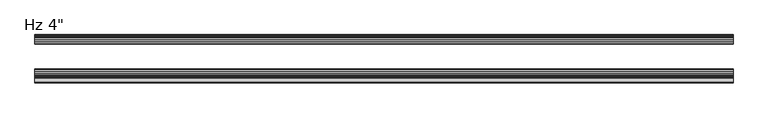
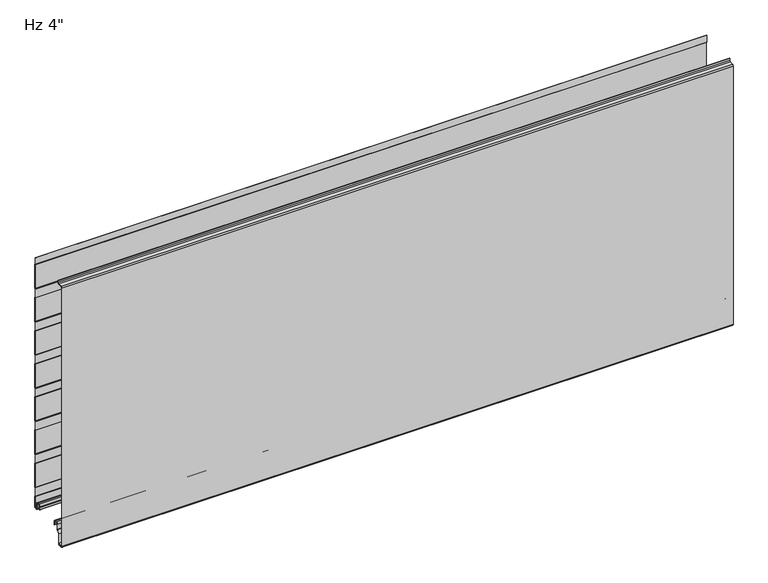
"""IFC4 building model written with IfcOpenShell, lengths in millimetres: plate geometry."""

from ifc_helpers import new_model, si_unit, point, frame, frame_2d, origin, place, context, project, spatial, polyline, circle_curve, trimmed, segment, composite_curve, outline, extrude, source, transform, mapped, element, save
from ifc_brep_helpers import plane_surface, cylinder_surface, revolved_surface, advanced_brep


def plate_ca38e474(model_context):
    return source(origin(), model_context, "Body", "SolidModel", [
        advanced_brep(
        [(-730.0, -17.0015368, 2.0313088), (-730.0, -18.00154, 1.0313116), (-730.0, -19.0015313, 2.0313088), (-730.0, -19.0015314, 6.0315125), (-730.0, -18.0015368, 6.0315125), (-730.0, -18.0015368, 8.7237223), (-730.0, -14.7015411, 12.023718), (-730.0, -10.3015499, 12.023718), (-730.0, -7.0015544, 8.7237225), (-730.0, -7.0015544, -1.6962564), (-730.0, -5.2315602, -3.4662506), (-730.0, -1.0000126, -3.4662506), (-730.0, -1.0000126, 21.034026), (-730.0, -2.2002516, 22.4196686), (-730.0, -2.2002516, 41.7948349), (-730.0, -1.0000209, 43.1804679), (-730.0, -1.0000209, 97.2338833), (-730.0, -2.2002516, 98.6195162), (-730.0, -2.2002516, 117.9946825), (-730.0, -1.0000209, 119.3803155), (-730.0, -1.0000209, 173.4337309), (-730.0, -2.2002516, 174.8193638), (-730.0, -2.2002516, 194.1945301), (-730.0, -1.0000209, 195.5801631), (-730.0, -1.0000209, 249.6335785), (-730.0, -2.2002516, 251.0192114), (-730.0, -2.2002516, 270.3943777), (-730.0, -1.0000209, 271.7800107), (-730.0, -1.0000209, 325.8334261), (-730.0, -2.2002516, 327.219059), (-730.0, -2.2002516, 346.5942253), (-730.0, -1.0000209, 347.9798583), (-730.0, -1.0000209, 402.0332737), (-730.0, -2.2002516, 403.4189066), (-730.0, -2.2002516, 422.7940729), (-730.0, -1.0000209, 424.1797059), (-730.0, -1.0000209, 478.2331213), (-730.0, -2.2002516, 479.6187542), (-730.0, -2.2002516, 498.9939205), (-730.0, -1.0000209, 500.3795535), (-730.0, -1.0000209, 554.4329689), (-730.0, -2.2002516, 555.8186018), (-730.0, -2.2002516, 571.2), (-730.0, -1.2002516, 571.2), (-730.0, -1.2002516, 556.1914823), (-730.0, -0.3418094, 555.2004346), (-730.0, -2.09e-05, 554.2838177), (-730.0, -2.09e-05, 500.5287046), (-730.0, -0.3418094, 499.6120877), (-730.0, -1.2002516, 498.6210401), (-730.0, -1.2002516, 479.9916347), (-730.0, -0.3418094, 479.000587), (-730.0, -2.09e-05, 478.0839701), (-730.0, -2.09e-05, 424.328857), (-730.0, -0.3418094, 423.4122401), (-730.0, -1.2002516, 422.4211925), (-730.0, -1.2002516, 403.7917871), (-730.0, -0.3418094, 402.8007394), (-730.0, -2.09e-05, 401.8841225), (-730.0, -2.09e-05, 348.1290094), (-730.0, -0.3418094, 347.2123925), (-730.0, -1.2002516, 346.2213449), (-730.0, -1.2002516, 327.5919395), (-730.0, -0.3418094, 326.6008918), (-730.0, -2.09e-05, 325.6842749), (-730.0, -2.09e-05, 271.9291618), (-730.0, -0.3418094, 271.0125449), (-730.0, -1.2002516, 270.0214973), (-730.0, -1.2002516, 251.3920919), (-730.0, -0.3418094, 250.4010442), (-730.0, -2.09e-05, 249.4844273), (-730.0, -2.09e-05, 195.7293142), (-730.0, -0.3418094, 194.8126973), (-730.0, -1.2002516, 193.8216497), (-730.0, -1.2002516, 175.1922443), (-730.0, -0.3418094, 174.2011966), (-730.0, -2.09e-05, 173.2845797), (-730.0, -2.09e-05, 119.5294666), (-730.0, -0.3418094, 118.6128497), (-730.0, -1.2002516, 117.6218021), (-730.0, -1.2002516, 98.9923967), (-730.0, -0.3418094, 98.001349), (-730.0, -2.09e-05, 97.0847321), (-730.0, -2.09e-05, 43.329619), (-730.0, -0.3418094, 42.4130021), (-730.0, -1.2002516, 41.4219545), (-730.0, -1.2002516, 22.7925491), (-730.0, -0.3418094, 21.8015014), (-730.0, -2.09e-05, 20.8847931), (-730.0, -1.26e-05, -3.0662545), (-730.0, -1.4000087, -4.4662506), (-730.0, -5.2315602, -4.4662506), (-730.0, -8.0015544, -1.6962564), (-730.0, -8.0015544, 8.7237225), (-730.0, -10.3015499, 11.023718), (-730.0, -14.7015411, 11.023718), (-730.0, -17.0015368, 8.7237223), (730.0, -17.0015368, 2.0313088), (730.0, -17.0015368, 8.7237223), (730.0, -14.7015411, 11.023718), (730.0, -10.3015499, 11.023718), (730.0, -8.0015544, 8.7237225), (730.0, -8.0015544, -1.6962564), (730.0, -5.2315602, -4.4662506), (730.0, -1.4000087, -4.4662506), (730.0, -1.26e-05, -3.0662545), (730.0, -1.26e-05, 20.8848845), (730.0, -0.3418094, 21.8015014), (730.0, -1.2002516, 22.7925491), (730.0, -1.2002516, 41.4219545), (730.0, -0.3418094, 42.4130021), (730.0, -2.09e-05, 43.329619), (730.0, -2.09e-05, 97.0847321), (730.0, -0.3418094, 98.001349), (730.0, -1.2002516, 98.9923967), (730.0, -1.2002516, 117.6218021), (730.0, -0.3418094, 118.6128497), (730.0, -2.09e-05, 119.5294666), (730.0, -2.09e-05, 173.2845797), (730.0, -0.3418094, 174.2011966), (730.0, -1.2002516, 175.1922443), (730.0, -1.2002516, 193.8216497), (730.0, -0.3418094, 194.8126973), (730.0, -2.09e-05, 195.7293142), (730.0, -2.09e-05, 249.4844273), (730.0, -0.3418094, 250.4010442), (730.0, -1.2002516, 251.3920919), (730.0, -1.2002516, 270.0214973), (730.0, -0.3418094, 271.0125449), (730.0, -2.09e-05, 271.9291618), (730.0, -2.09e-05, 325.6842749), (730.0, -0.3418094, 326.6008918), (730.0, -1.2002516, 327.5919395), (730.0, -1.2002516, 346.2213449), (730.0, -0.3418094, 347.2123925), (730.0, -2.09e-05, 348.1290094), (730.0, -2.09e-05, 401.8841225), (730.0, -0.3418094, 402.8007394), (730.0, -1.2002516, 403.7917871), (730.0, -1.2002516, 422.4211925), (730.0, -0.3418094, 423.4122401), (730.0, -2.09e-05, 424.328857), (730.0, -2.09e-05, 478.0839701), (730.0, -0.3418094, 479.000587), (730.0, -1.2002516, 479.9916347), (730.0, -1.2002516, 498.6210401), (730.0, -0.3418094, 499.6120877), (730.0, -2.09e-05, 500.5287046), (730.0, -2.09e-05, 554.2838177), (730.0, -0.3418094, 555.2004346), (730.0, -1.2002516, 556.1914823), (730.0, -1.2002516, 571.2), (730.0, -2.2002516, 571.2), (730.0, -2.2002516, 555.8186018), (730.0, -1.0000209, 554.4329689), (730.0, -1.0000209, 500.3795535), (730.0, -2.2002516, 498.9939205), (730.0, -2.2002516, 479.6187542), (730.0, -1.0000209, 478.2331213), (730.0, -1.0000209, 424.1797059), (730.0, -2.2002516, 422.7940729), (730.0, -2.2002516, 403.4189066), (730.0, -1.0000209, 402.0332737), (730.0, -1.0000209, 347.9798583), (730.0, -2.2002516, 346.5942253), (730.0, -2.2002516, 327.219059), (730.0, -1.0000209, 325.8334261), (730.0, -1.0000209, 271.7800107), (730.0, -2.2002516, 270.3943777), (730.0, -2.2002516, 251.0192114), (730.0, -1.0000209, 249.6335785), (730.0, -1.0000209, 195.5801631), (730.0, -2.2002516, 194.1945301), (730.0, -2.2002516, 174.8193638), (730.0, -1.0000209, 173.4337309), (730.0, -1.0000209, 119.3803155), (730.0, -2.2002516, 117.9946825), (730.0, -2.2002516, 98.6195162), (730.0, -1.0000209, 97.2338833), (730.0, -1.0000209, 43.1804679), (730.0, -2.2002516, 41.7948349), (730.0, -2.2002516, 22.4196686), (730.0, -1.0000126, 21.034026), (730.0, -1.0000126, -3.4662506), (730.0, -5.2315602, -3.4662506), (730.0, -7.0015544, -1.6962564), (730.0, -7.0015544, 8.7237225), (730.0, -10.3015499, 12.023718), (730.0, -14.7015411, 12.023718), (730.0, -18.0015368, 8.7237223), (730.0, -18.0015368, 6.0315125), (730.0, -19.0015314, 6.0315125), (730.0, -19.0015314, 2.0313088), (730.0, -18.00154, 1.0313116)],
        [
            (0, 1, circle_curve(frame((-730.0, -18.0015341, 2.0313088), z_axis=(-1.0, 0.0, 0.0), x_axis=(0.0, 0.0, 1.0)), 0.9999973)),
            (1, 2, circle_curve(frame((-730.0, -18.0015341, 2.0313088), z_axis=(-1.0, 0.0, 0.0), x_axis=(0.0, 0.0, 1.0)), 0.9999972)),
            (2, 3),
            (3, 4),
            (4, 5),
            (5, 6, circle_curve(frame((-730.0, -14.7015411, 8.7237223), z_axis=(-1.0, 0.0, 0.0), x_axis=(0.0, 0.0, 1.0)), 3.2999957)),
            (6, 7),
            (7, 8, circle_curve(frame((-730.0, -10.3015499, 8.7237225), z_axis=(-1.0, 0.0, 0.0), x_axis=(0.0, 0.0, 1.0)), 3.2999955)),
            (8, 9),
            (9, 10, circle_curve(frame((-730.0, -5.2315602, -1.6962564), z_axis=(1.0, 0.0, 0.0), x_axis=(0.0, 0.0, 1.0)), 1.7699942)),
            (10, 11),
            (11, 12),
            (12, 13),
            (13, 14),
            (14, 15),
            (15, 16),
            (16, 17),
            (17, 18),
            (18, 19),
            (19, 20),
            (20, 21),
            (21, 22),
            (22, 23),
            (23, 24),
            (24, 25),
            (25, 26),
            (26, 27),
            (27, 28),
            (28, 29),
            (29, 30),
            (30, 31),
            (31, 32),
            (32, 33),
            (33, 34),
            (34, 35),
            (35, 36),
            (36, 37),
            (37, 38),
            (38, 39),
            (39, 40),
            (40, 41),
            (41, 42),
            (42, 43),
            (43, 44),
            (44, 45),
            (45, 46, circle_curve(frame((-730.0, -1.4000181, 554.2838177), z_axis=(-1.0, 0.0, 0.0), x_axis=(0.0, 0.0, 1.0)), 1.3999972)),
            (46, 47),
            (47, 48, circle_curve(frame((-730.0, -1.4000181, 500.5287046), z_axis=(-1.0, 0.0, 0.0), x_axis=(0.0, 0.0, 1.0)), 1.3999972)),
            (48, 49),
            (49, 50),
            (50, 51),
            (51, 52, circle_curve(frame((-730.0, -1.4000181, 478.0839701), z_axis=(-1.0, 0.0, 0.0), x_axis=(0.0, 0.0, 1.0)), 1.3999972)),
            (52, 53),
            (53, 54, circle_curve(frame((-730.0, -1.4000181, 424.328857), z_axis=(-1.0, 0.0, 0.0), x_axis=(0.0, 0.0, 1.0)), 1.3999972)),
            (54, 55),
            (55, 56),
            (56, 57),
            (57, 58, circle_curve(frame((-730.0, -1.4000181, 401.8841225), z_axis=(-1.0, 0.0, 0.0), x_axis=(0.0, 0.0, 1.0)), 1.3999972)),
            (58, 59),
            (59, 60, circle_curve(frame((-730.0, -1.4000181, 348.1290094), z_axis=(-1.0, 0.0, 0.0), x_axis=(0.0, 0.0, 1.0)), 1.3999972)),
            (60, 61),
            (61, 62),
            (62, 63),
            (63, 64, circle_curve(frame((-730.0, -1.4000181, 325.6842749), z_axis=(-1.0, 0.0, 0.0), x_axis=(0.0, 0.0, 1.0)), 1.3999972)),
            (64, 65),
            (65, 66, circle_curve(frame((-730.0, -1.4000181, 271.9291618), z_axis=(-1.0, 0.0, 0.0), x_axis=(0.0, 0.0, 1.0)), 1.3999972)),
            (66, 67),
            (67, 68),
            (68, 69),
            (69, 70, circle_curve(frame((-730.0, -1.4000181, 249.4844273), z_axis=(-1.0, 0.0, 0.0), x_axis=(0.0, 0.0, 1.0)), 1.3999972)),
            (70, 71),
            (71, 72, circle_curve(frame((-730.0, -1.4000181, 195.7293142), z_axis=(-1.0, 0.0, 0.0), x_axis=(0.0, 0.0, 1.0)), 1.3999972)),
            (72, 73),
            (73, 74),
            (74, 75),
            (75, 76, circle_curve(frame((-730.0, -1.4000181, 173.2845797), z_axis=(-1.0, 0.0, 0.0), x_axis=(0.0, 0.0, 1.0)), 1.3999972)),
            (76, 77),
            (77, 78, circle_curve(frame((-730.0, -1.4000181, 119.5294666), z_axis=(-1.0, 0.0, 0.0), x_axis=(0.0, 0.0, 1.0)), 1.3999972)),
            (78, 79),
            (79, 80),
            (80, 81),
            (81, 82, circle_curve(frame((-730.0, -1.4000181, 97.0847321), z_axis=(-1.0, 0.0, 0.0), x_axis=(0.0, 0.0, 1.0)), 1.3999972)),
            (82, 83),
            (83, 84, circle_curve(frame((-730.0, -1.4000181, 43.329619), z_axis=(-1.0, 0.0, 0.0), x_axis=(0.0, 0.0, 1.0)), 1.3999972)),
            (84, 85),
            (85, 86),
            (86, 87),
            (87, 88, circle_curve(frame((-730.0, -1.4000181, 20.8848845), z_axis=(-1.0, 0.0, 0.0), x_axis=(0.0, 0.0, 1.0)), 1.3999972)),
            (88, 89),
            (89, 90, circle_curve(frame((-730.0, -1.4000087, -3.0662545), z_axis=(-1.0, 0.0, 0.0), x_axis=(0.0, 0.0, 1.0)), 1.3999962)),
            (90, 91),
            (91, 92, circle_curve(frame((-730.0, -5.2315602, -1.6962564), z_axis=(-1.0, 0.0, 0.0), x_axis=(0.0, 0.0, 1.0)), 2.7699942)),
            (92, 93),
            (93, 94, circle_curve(frame((-730.0, -10.3015499, 8.7237225), z_axis=(1.0, 0.0, 0.0), x_axis=(0.0, 0.0, 1.0)), 2.2999955)),
            (94, 95),
            (95, 96, circle_curve(frame((-730.0, -14.7015411, 8.7237223), z_axis=(1.0, 0.0, 0.0), x_axis=(0.0, 0.0, 1.0)), 2.2999957)),
            (96, 0),
            (97, 98),
            (98, 99, circle_curve(frame((730.0, -14.7015411, 8.7237223), z_axis=(-1.0, 0.0, 0.0), x_axis=(0.0, 0.0, 1.0)), 2.2999957)),
            (99, 100),
            (100, 101, circle_curve(frame((730.0, -10.3015499, 8.7237225), z_axis=(-1.0, 0.0, 0.0), x_axis=(0.0, 0.0, 1.0)), 2.2999955)),
            (101, 102),
            (102, 103, circle_curve(frame((730.0, -5.2315602, -1.6962564), z_axis=(1.0, 0.0, 0.0), x_axis=(0.0, 0.0, 1.0)), 2.7699942)),
            (103, 104),
            (104, 105, circle_curve(frame((730.0, -1.4000087, -3.0662545), z_axis=(1.0, 0.0, 0.0), x_axis=(0.0, 0.0, 1.0)), 1.3999962)),
            (105, 106),
            (106, 107, circle_curve(frame((730.0, -1.4000181, 20.8848845), z_axis=(1.0, 0.0, 0.0), x_axis=(0.0, 0.0, 1.0)), 1.3999972)),
            (107, 108),
            (108, 109),
            (109, 110),
            (110, 111, circle_curve(frame((730.0, -1.4000181, 43.329619), z_axis=(1.0, 0.0, 0.0), x_axis=(0.0, 0.0, 1.0)), 1.3999972)),
            (111, 112),
            (112, 113, circle_curve(frame((730.0, -1.4000181, 97.0847321), z_axis=(1.0, 0.0, 0.0), x_axis=(0.0, 0.0, 1.0)), 1.3999972)),
            (113, 114),
            (114, 115),
            (115, 116),
            (116, 117, circle_curve(frame((730.0, -1.4000181, 119.5294666), z_axis=(1.0, 0.0, 0.0), x_axis=(0.0, 0.0, 1.0)), 1.3999972)),
            (117, 118),
            (118, 119, circle_curve(frame((730.0, -1.4000181, 173.2845797), z_axis=(1.0, 0.0, 0.0), x_axis=(0.0, 0.0, 1.0)), 1.3999972)),
            (119, 120),
            (120, 121),
            (121, 122),
            (122, 123, circle_curve(frame((730.0, -1.4000181, 195.7293142), z_axis=(1.0, 0.0, 0.0), x_axis=(0.0, 0.0, 1.0)), 1.3999972)),
            (123, 124),
            (124, 125, circle_curve(frame((730.0, -1.4000181, 249.4844273), z_axis=(1.0, 0.0, 0.0), x_axis=(0.0, 0.0, 1.0)), 1.3999972)),
            (125, 126),
            (126, 127),
            (127, 128),
            (128, 129, circle_curve(frame((730.0, -1.4000181, 271.9291618), z_axis=(1.0, 0.0, 0.0), x_axis=(0.0, 0.0, 1.0)), 1.3999972)),
            (129, 130),
            (130, 131, circle_curve(frame((730.0, -1.4000181, 325.6842749), z_axis=(1.0, 0.0, 0.0), x_axis=(0.0, 0.0, 1.0)), 1.3999972)),
            (131, 132),
            (132, 133),
            (133, 134),
            (134, 135, circle_curve(frame((730.0, -1.4000181, 348.1290094), z_axis=(1.0, 0.0, 0.0), x_axis=(0.0, 0.0, 1.0)), 1.3999972)),
            (135, 136),
            (136, 137, circle_curve(frame((730.0, -1.4000181, 401.8841225), z_axis=(1.0, 0.0, 0.0), x_axis=(0.0, 0.0, 1.0)), 1.3999972)),
            (137, 138),
            (138, 139),
            (139, 140),
            (140, 141, circle_curve(frame((730.0, -1.4000181, 424.328857), z_axis=(1.0, 0.0, 0.0), x_axis=(0.0, 0.0, 1.0)), 1.3999972)),
            (141, 142),
            (142, 143, circle_curve(frame((730.0, -1.4000181, 478.0839701), z_axis=(1.0, 0.0, 0.0), x_axis=(0.0, 0.0, 1.0)), 1.3999972)),
            (143, 144),
            (144, 145),
            (145, 146),
            (146, 147, circle_curve(frame((730.0, -1.4000181, 500.5287046), z_axis=(1.0, 0.0, 0.0), x_axis=(0.0, 0.0, 1.0)), 1.3999972)),
            (147, 148),
            (148, 149, circle_curve(frame((730.0, -1.4000181, 554.2838177), z_axis=(1.0, 0.0, 0.0), x_axis=(0.0, 0.0, 1.0)), 1.3999972)),
            (149, 150),
            (150, 151),
            (151, 152),
            (152, 153),
            (153, 154),
            (154, 155),
            (155, 156),
            (156, 157),
            (157, 158),
            (158, 159),
            (159, 160),
            (160, 161),
            (161, 162),
            (162, 163),
            (163, 164),
            (164, 165),
            (165, 166),
            (166, 167),
            (167, 168),
            (168, 169),
            (169, 170),
            (170, 171),
            (171, 172),
            (172, 173),
            (173, 174),
            (174, 175),
            (175, 176),
            (176, 177),
            (177, 178),
            (178, 179),
            (179, 180),
            (180, 181),
            (181, 182),
            (182, 183),
            (183, 184),
            (184, 185, circle_curve(frame((730.0, -5.2315602, -1.6962564), z_axis=(-1.0, 0.0, 0.0), x_axis=(0.0, 0.0, 1.0)), 1.7699942)),
            (185, 186),
            (186, 187, circle_curve(frame((730.0, -10.3015499, 8.7237225), z_axis=(1.0, 0.0, 0.0), x_axis=(0.0, 0.0, 1.0)), 3.2999955)),
            (187, 188),
            (188, 189, circle_curve(frame((730.0, -14.7015411, 8.7237223), z_axis=(1.0, 0.0, 0.0), x_axis=(0.0, 0.0, 1.0)), 3.2999957)),
            (189, 190),
            (190, 191),
            (191, 192),
            (192, 193, circle_curve(frame((730.0, -18.0015341, 2.0313088), z_axis=(1.0, 0.0, 0.0), x_axis=(0.0, 0.0, 1.0)), 0.9999972)),
            (193, 97, circle_curve(frame((730.0, -18.0015341, 2.0313088), z_axis=(1.0, 0.0, 0.0), x_axis=(0.0, 0.0, 1.0)), 0.9999973)),
            (96, 98),
            (97, 0),
            (95, 99),
            (94, 100),
            (93, 101),
            (92, 102),
            (91, 103),
            (90, 104),
            (89, 105),
            (88, 106),
            (70, 124),
            (123, 71),
            (87, 107),
            (86, 108),
            (85, 109),
            (83, 111),
            (110, 84),
            (81, 113),
            (112, 82),
            (66, 128),
            (127, 67),
            (122, 72),
            (121, 73),
            (76, 118),
            (117, 77),
            (69, 125),
            (68, 126),
            (65, 129),
            (116, 78),
            (79, 115),
            (114, 80),
            (75, 119),
            (74, 120),
            (2, 192),
            (191, 3),
            (1, 193),
            (64, 130),
            (63, 131),
            (62, 132),
            (61, 133),
            (60, 134),
            (59, 135),
            (58, 136),
            (31, 163),
            (162, 32),
            (30, 164),
            (29, 165),
            (28, 166),
            (27, 167),
            (26, 168),
            (25, 169),
            (24, 170),
            (23, 171),
            (22, 172),
            (21, 173),
            (20, 174),
            (19, 175),
            (18, 176),
            (17, 177),
            (16, 178),
            (15, 179),
            (14, 180),
            (13, 181),
            (12, 182),
            (11, 183),
            (10, 184),
            (9, 185),
            (8, 186),
            (7, 187),
            (6, 188),
            (5, 189),
            (4, 190),
            (42, 152),
            (151, 43),
            (57, 137),
            (56, 138),
            (55, 139),
            (54, 140),
            (53, 141),
            (52, 142),
            (51, 143),
            (50, 144),
            (49, 145),
            (48, 146),
            (47, 147),
            (46, 148),
            (45, 149),
            (44, 150),
            (41, 153),
            (40, 154),
            (39, 155),
            (38, 156),
            (37, 157),
            (36, 158),
            (35, 159),
            (34, 160),
            (33, 161),
        ],
        [
            plane_surface(frame((-730.0, -2.09e-05, 304.8), z_axis=(-1.0, 0.0, 0.0), x_axis=(0.0, 1.0, 0.0))),
            plane_surface(frame((730.0, -2.09e-05, 304.8), z_axis=(1.0, 0.0, 0.0), x_axis=(0.0, 1.0, 0.0))),
            plane_surface(frame((-730.0, -17.0015368, 2.0313088), z_axis=(0.0, 1.0, 0.0), x_axis=(1.0, 0.0, 0.0))),
            revolved_surface(polyline([(730.0, -14.7015411, 11.023718), (-730.0, -14.7015411, 11.023718)]), (-730.0, -14.7015411, 8.7237223), (1.0, 0.0, 0.0)),
            plane_surface(frame((-730.0, -14.7015411, 11.023718), z_axis=(0.0, 0.0, -1.0), x_axis=(1.0, 0.0, 0.0))),
            revolved_surface(polyline([(730.0, -10.3015499, 11.023717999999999), (-730.0, -10.3015499, 11.023717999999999)]), (-730.0, -10.3015499, 8.7237225), (1.0, 0.0, 0.0)),
            plane_surface(frame((-730.0, -8.0015544, 8.7237225), z_axis=(0.0, -1.0, 0.0), x_axis=(1.0, 0.0, 0.0))),
            cylinder_surface(frame((-730.0, -5.2315602, -1.6962564), z_axis=(-1.0, 0.0, 0.0), x_axis=(0.0, 0.0, 1.0)), 2.7699942),
            plane_surface(frame((-730.0, -5.2315602, -4.4662506), z_axis=(0.0, 0.0, -1.0), x_axis=(1.0, 0.0, 0.0))),
            cylinder_surface(frame((-730.0, -1.4000087, -3.0662545), z_axis=(-1.0, 0.0, 0.0), x_axis=(0.0, 0.0, 1.0)), 1.3999962),
            plane_surface(frame((-730.0, -1.26e-05, -3.0662545), z_axis=(0.0, 1.0, 0.0), x_axis=(1.0, 0.0, 0.0))),
            plane_surface(frame((-730.0, -2.09e-05, 195.7293142), z_axis=(0.0, 1.0, 0.0), x_axis=(1.0, 0.0, 0.0))),
            cylinder_surface(frame((-730.0, -1.4000181, 20.8848845), z_axis=(-1.0, 0.0, 0.0), x_axis=(0.0, 0.0, 1.0)), 1.3999972),
            plane_surface(frame((-730.0, -0.3418094, 21.8015014), z_axis=(0.0, 0.755864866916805, 0.6547276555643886), x_axis=(1.0, 0.0, 0.0))),
            plane_surface(frame((-730.0, -1.2002516, 32.1072518), z_axis=(0.0, 1.0, 0.0), x_axis=(1.0, 0.0, 0.0))),
            cylinder_surface(frame((-730.0, -1.4000181, 43.329619), z_axis=(-1.0, 0.0, 0.0), x_axis=(0.0, 0.0, 1.0)), 1.3999972),
            plane_surface(frame((-730.0, -1.2002516, 41.4219545), z_axis=(0.0, 0.755864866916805, -0.6547276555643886), x_axis=(1.0, 0.0, 0.0))),
            cylinder_surface(frame((-730.0, -1.4000181, 97.0847321), z_axis=(-1.0, 0.0, 0.0), x_axis=(0.0, 0.0, 1.0)), 1.3999972),
            plane_surface(frame((-730.0, -1.2002516, 270.0214973), z_axis=(0.0, 0.755864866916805, -0.6547276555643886), x_axis=(1.0, 0.0, 0.0))),
            cylinder_surface(frame((-730.0, -1.4000181, 195.7293142), z_axis=(-1.0, 0.0, 0.0), x_axis=(0.0, 0.0, 1.0)), 1.3999972),
            plane_surface(frame((-730.0, -1.2002516, 193.8216497), z_axis=(0.0, 0.755864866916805, -0.6547276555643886), x_axis=(1.0, 0.0, 0.0))),
            plane_surface(frame((-730.0, -2.09e-05, 119.5294666), z_axis=(0.0, 1.0, 0.0), x_axis=(1.0, 0.0, 0.0))),
            cylinder_surface(frame((-730.0, -1.4000181, 249.4844273), z_axis=(-1.0, 0.0, 0.0), x_axis=(0.0, 0.0, 1.0)), 1.3999972),
            plane_surface(frame((-730.0, -0.3418094, 250.4010442), z_axis=(0.0, 0.755864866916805, 0.6547276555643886), x_axis=(1.0, 0.0, 0.0))),
            plane_surface(frame((-730.0, -1.2002516, 260.7067946), z_axis=(0.0, 1.0, 0.0), x_axis=(1.0, 0.0, 0.0))),
            cylinder_surface(frame((-730.0, -1.4000181, 271.9291618), z_axis=(-1.0, 0.0, 0.0), x_axis=(0.0, 0.0, 1.0)), 1.3999972),
            cylinder_surface(frame((-730.0, -1.4000181, 119.5294666), z_axis=(-1.0, 0.0, 0.0), x_axis=(0.0, 0.0, 1.0)), 1.3999972),
            plane_surface(frame((-730.0, -1.2002516, 108.3070994), z_axis=(0.0, 1.0, 0.0), x_axis=(1.0, 0.0, 0.0))),
            plane_surface(frame((-730.0, -0.3418094, 98.001349), z_axis=(0.0, 0.755864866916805, 0.6547276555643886), x_axis=(1.0, 0.0, 0.0))),
            plane_surface(frame((-730.0, -1.2002516, 117.6218021), z_axis=(0.0, 0.755864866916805, -0.6547276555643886), x_axis=(1.0, 0.0, 0.0))),
            plane_surface(frame((-730.0, -2.09e-05, 43.329619), z_axis=(0.0, 1.0, 0.0), x_axis=(1.0, 0.0, 0.0))),
            cylinder_surface(frame((-730.0, -1.4000181, 173.2845797), z_axis=(-1.0, 0.0, 0.0), x_axis=(0.0, 0.0, 1.0)), 1.3999972),
            plane_surface(frame((-730.0, -0.3418094, 174.2011966), z_axis=(0.0, 0.755864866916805, 0.6547276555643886), x_axis=(1.0, 0.0, 0.0))),
            plane_surface(frame((-730.0, -1.2002516, 184.506947), z_axis=(0.0, 1.0, 0.0), x_axis=(1.0, 0.0, 0.0))),
            plane_surface(frame((-730.0, -19.0015314, 6.0315125), z_axis=(0.0, -1.0, 0.0), x_axis=(1.0, 0.0, 0.0))),
            cylinder_surface(frame((-730.0, -18.0015341, 2.0313088), z_axis=(-1.0, 0.0, 0.0), x_axis=(0.0, 0.0, 1.0)), 0.9999972),
            cylinder_surface(frame((-730.0, -18.0015341, 2.0313088), z_axis=(-1.0, 0.0, 0.0), x_axis=(0.0, 0.0, 1.0)), 0.9999973),
            plane_surface(frame((-730.0, -2.09e-05, 271.9291618), z_axis=(0.0, 1.0, 0.0), x_axis=(1.0, 0.0, 0.0))),
            cylinder_surface(frame((-730.0, -1.4000181, 325.6842749), z_axis=(-1.0, 0.0, 0.0), x_axis=(0.0, 0.0, 1.0)), 1.3999972),
            plane_surface(frame((-730.0, -0.3418094, 326.6008918), z_axis=(0.0, 0.755864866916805, 0.6547276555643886), x_axis=(1.0, 0.0, 0.0))),
            plane_surface(frame((-730.0, -1.2002516, 336.9066422), z_axis=(0.0, 1.0, 0.0), x_axis=(1.0, 0.0, 0.0))),
            plane_surface(frame((-730.0, -1.2002516, 346.2213449), z_axis=(0.0, 0.755864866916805, -0.6547276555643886), x_axis=(1.0, 0.0, 0.0))),
            cylinder_surface(frame((-730.0, -1.4000181, 348.1290094), z_axis=(-1.0, 0.0, 0.0), x_axis=(0.0, 0.0, 1.0)), 1.3999972),
            plane_surface(frame((-730.0, -2.09e-05, 348.1290094), z_axis=(0.0, 1.0, 0.0), x_axis=(1.0, 0.0, 0.0))),
            plane_surface(frame((-730.0, -1.0000209, 402.0332737), z_axis=(0.0, -1.0, 0.0), x_axis=(1.0, 0.0, 0.0))),
            plane_surface(frame((-730.0, -1.0000209, 347.9798583), z_axis=(0.0, -0.755864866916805, 0.6547276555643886), x_axis=(1.0, 0.0, 0.0))),
            plane_surface(frame((-730.0, -2.2002516, 346.5942253), z_axis=(0.0, -1.0, 0.0), x_axis=(1.0, 0.0, 0.0))),
            plane_surface(frame((-730.0, -2.2002516, 327.219059), z_axis=(0.0, -0.755864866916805, -0.6547276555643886), x_axis=(1.0, 0.0, 0.0))),
            plane_surface(frame((-730.0, -1.0000209, 325.8334261), z_axis=(0.0, -1.0, 0.0), x_axis=(1.0, 0.0, 0.0))),
            plane_surface(frame((-730.0, -1.0000209, 271.7800107), z_axis=(0.0, -0.755864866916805, 0.6547276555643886), x_axis=(1.0, 0.0, 0.0))),
            plane_surface(frame((-730.0, -2.2002516, 270.3943777), z_axis=(0.0, -1.0, 0.0), x_axis=(1.0, 0.0, 0.0))),
            plane_surface(frame((-730.0, -2.2002516, 251.0192114), z_axis=(0.0, -0.755864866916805, -0.6547276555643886), x_axis=(1.0, 0.0, 0.0))),
            plane_surface(frame((-730.0, -1.0000209, 249.6335785), z_axis=(0.0, -1.0, 0.0), x_axis=(1.0, 0.0, 0.0))),
            plane_surface(frame((-730.0, -1.0000209, 195.5801631), z_axis=(0.0, -0.755864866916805, 0.6547276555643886), x_axis=(1.0, 0.0, 0.0))),
            plane_surface(frame((-730.0, -2.2002516, 194.1945301), z_axis=(0.0, -1.0, 0.0), x_axis=(1.0, 0.0, 0.0))),
            plane_surface(frame((-730.0, -2.2002516, 174.8193638), z_axis=(0.0, -0.755864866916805, -0.6547276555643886), x_axis=(1.0, 0.0, 0.0))),
            plane_surface(frame((-730.0, -1.0000209, 173.4337309), z_axis=(0.0, -1.0, 0.0), x_axis=(1.0, 0.0, 0.0))),
            plane_surface(frame((-730.0, -1.0000209, 119.3803155), z_axis=(0.0, -0.755864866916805, 0.6547276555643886), x_axis=(1.0, 0.0, 0.0))),
            plane_surface(frame((-730.0, -2.2002516, 117.9946825), z_axis=(0.0, -1.0, 0.0), x_axis=(1.0, 0.0, 0.0))),
            plane_surface(frame((-730.0, -2.2002516, 98.6195162), z_axis=(0.0, -0.755864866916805, -0.6547276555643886), x_axis=(1.0, 0.0, 0.0))),
            plane_surface(frame((-730.0, -1.0000209, 97.2338833), z_axis=(0.0, -1.0, 0.0), x_axis=(1.0, 0.0, 0.0))),
            plane_surface(frame((-730.0, -1.0000209, 43.1804679), z_axis=(0.0, -0.755864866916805, 0.6547276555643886), x_axis=(1.0, 0.0, 0.0))),
            plane_surface(frame((-730.0, -2.2002516, 41.7948349), z_axis=(0.0, -1.0, 0.0), x_axis=(1.0, 0.0, 0.0))),
            plane_surface(frame((-730.0, -2.2002516, 22.4196686), z_axis=(0.0, -0.755864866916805, -0.6547276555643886), x_axis=(1.0, 0.0, 0.0))),
            plane_surface(frame((-730.0, -1.0000126, 21.034026), z_axis=(0.0, -1.0, 0.0), x_axis=(1.0, 0.0, 0.0))),
            plane_surface(frame((-730.0, -1.0000126, -3.4662506), z_axis=(0.0, 0.0, 1.0), x_axis=(1.0, 0.0, 0.0))),
            revolved_surface(polyline([(730.0, -5.2315602, 0.07373779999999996), (-730.0, -5.2315602, 0.07373779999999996)]), (-730.0, -5.2315602, -1.6962564), (1.0, 0.0, 0.0)),
            plane_surface(frame((-730.0, -7.0015544, -1.6962564), z_axis=(0.0, 1.0, 0.0), x_axis=(1.0, 0.0, 0.0))),
            cylinder_surface(frame((-730.0, -10.3015499, 8.7237225), z_axis=(-1.0, 0.0, 0.0), x_axis=(0.0, 0.0, 1.0)), 3.2999955),
            plane_surface(frame((-730.0, -10.3015499, 12.023718), z_axis=(0.0, 0.0, 1.0), x_axis=(1.0, 0.0, 0.0))),
            cylinder_surface(frame((-730.0, -14.7015411, 8.7237223), z_axis=(-1.0, 0.0, 0.0), x_axis=(0.0, 0.0, 1.0)), 3.2999957),
            plane_surface(frame((-730.0, -18.0015368, 8.7237223), z_axis=(0.0, -1.0, 0.0), x_axis=(1.0, 0.0, 0.0))),
            plane_surface(frame((-730.0, -18.0015368, 6.0315125), z_axis=(0.0, 0.0, 1.0), x_axis=(1.0, 0.0, 0.0))),
            plane_surface(frame((730.0, 9.9999791, 571.2), z_axis=(0.0, 0.0, 1.0), x_axis=(-1.0, 0.0, 0.0))),
            cylinder_surface(frame((-730.0, -1.4000181, 401.8841225), z_axis=(-1.0, 0.0, 0.0), x_axis=(0.0, 0.0, 1.0)), 1.3999972),
            plane_surface(frame((-730.0, -0.3418094, 402.8007394), z_axis=(0.0, 0.755864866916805, 0.6547276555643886), x_axis=(1.0, 0.0, 0.0))),
            plane_surface(frame((-730.0, -1.2002516, 413.1064898), z_axis=(0.0, 1.0, 0.0), x_axis=(1.0, 0.0, 0.0))),
            plane_surface(frame((-730.0, -1.2002516, 422.4211925), z_axis=(0.0, 0.755864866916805, -0.6547276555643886), x_axis=(1.0, 0.0, 0.0))),
            cylinder_surface(frame((-730.0, -1.4000181, 424.328857), z_axis=(-1.0, 0.0, 0.0), x_axis=(0.0, 0.0, 1.0)), 1.3999972),
            plane_surface(frame((-730.0, -2.09e-05, 424.328857), z_axis=(0.0, 1.0, 0.0), x_axis=(1.0, 0.0, 0.0))),
            cylinder_surface(frame((-730.0, -1.4000181, 478.0839701), z_axis=(-1.0, 0.0, 0.0), x_axis=(0.0, 0.0, 1.0)), 1.3999972),
            plane_surface(frame((-730.0, -0.3418094, 479.000587), z_axis=(0.0, 0.755864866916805, 0.6547276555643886), x_axis=(1.0, 0.0, 0.0))),
            plane_surface(frame((-730.0, -1.2002516, 489.3063374), z_axis=(0.0, 1.0, 0.0), x_axis=(1.0, 0.0, 0.0))),
            plane_surface(frame((-730.0, -1.2002516, 498.6210401), z_axis=(0.0, 0.755864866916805, -0.6547276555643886), x_axis=(1.0, 0.0, 0.0))),
            cylinder_surface(frame((-730.0, -1.4000181, 500.5287046), z_axis=(-1.0, 0.0, 0.0), x_axis=(0.0, 0.0, 1.0)), 1.3999972),
            plane_surface(frame((-730.0, -2.09e-05, 500.5287046), z_axis=(0.0, 1.0, 0.0), x_axis=(1.0, 0.0, 0.0))),
            cylinder_surface(frame((-730.0, -1.4000181, 554.2838177), z_axis=(-1.0, 0.0, 0.0), x_axis=(0.0, 0.0, 1.0)), 1.3999972),
            plane_surface(frame((-730.0, -0.3418094, 555.2004346), z_axis=(0.0, 0.755864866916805, 0.6547276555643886), x_axis=(1.0, 0.0, 0.0))),
            plane_surface(frame((-730.0, -1.2002516, 565.506185), z_axis=(0.0, 1.0, 0.0), x_axis=(1.0, 0.0, 0.0))),
            plane_surface(frame((-730.0, -2.2002516, 575.1937681), z_axis=(0.0, -1.0, 0.0), x_axis=(1.0, 0.0, 0.0))),
            plane_surface(frame((-730.0, -2.2002516, 555.8186018), z_axis=(0.0, -0.755864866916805, -0.6547276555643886), x_axis=(1.0, 0.0, 0.0))),
            plane_surface(frame((-730.0, -1.0000209, 554.4329689), z_axis=(0.0, -1.0, 0.0), x_axis=(1.0, 0.0, 0.0))),
            plane_surface(frame((-730.0, -1.0000209, 500.3795535), z_axis=(0.0, -0.755864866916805, 0.6547276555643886), x_axis=(1.0, 0.0, 0.0))),
            plane_surface(frame((-730.0, -2.2002516, 498.9939205), z_axis=(0.0, -1.0, 0.0), x_axis=(1.0, 0.0, 0.0))),
            plane_surface(frame((-730.0, -2.2002516, 479.6187542), z_axis=(0.0, -0.755864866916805, -0.6547276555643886), x_axis=(1.0, 0.0, 0.0))),
            plane_surface(frame((-730.0, -1.0000209, 478.2331213), z_axis=(0.0, -1.0, 0.0), x_axis=(1.0, 0.0, 0.0))),
            plane_surface(frame((-730.0, -1.0000209, 424.1797059), z_axis=(0.0, -0.755864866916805, 0.6547276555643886), x_axis=(1.0, 0.0, 0.0))),
            plane_surface(frame((-730.0, -2.2002516, 422.7940729), z_axis=(0.0, -1.0, 0.0), x_axis=(1.0, 0.0, 0.0))),
            plane_surface(frame((-730.0, -2.2002516, 403.4189066), z_axis=(0.0, -0.755864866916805, -0.6547276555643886), x_axis=(1.0, 0.0, 0.0))),
        ],
        [
            (0, [[1, 2, 3, 4, 5, 6, 7, 8, 9, 10, 11, 12, 13, 14, 15, 16, 17, 18, 19, 20, 21, 22, 23, 24, 25, 26, 27, 28, 29, 30, 31, 32, 33, 34, 35, 36, 37, 38, 39, 40, 41, 42, 43, 44, 45, 46, 47, 48, 49, 50, 51, 52, 53, 54, 55, 56, 57, 58, 59, 60, 61, 62, 63, 64, 65, 66, 67, 68, 69, 70, 71, 72, 73, 74, 75, 76, 77, 78, 79, 80, 81, 82, 83, 84, 85, 86, 87, 88, 89, 90, 91, 92, 93, 94, 95, 96, 97]]),
            (1, [[98, 99, 100, 101, 102, 103, 104, 105, 106, 107, 108, 109, 110, 111, 112, 113, 114, 115, 116, 117, 118, 119, 120, 121, 122, 123, 124, 125, 126, 127, 128, 129, 130, 131, 132, 133, 134, 135, 136, 137, 138, 139, 140, 141, 142, 143, 144, 145, 146, 147, 148, 149, 150, 151, 152, 153, 154, 155, 156, 157, 158, 159, 160, 161, 162, 163, 164, 165, 166, 167, 168, 169, 170, 171, 172, 173, 174, 175, 176, 177, 178, 179, 180, 181, 182, 183, 184, 185, 186, 187, 188, 189, 190, 191, 192, 193, 194]]),
            (2, [[195, -98, 196, -97]]),
            (3, [[197, -99, -195, -96]]),
            (4, [[198, -100, -197, -95]]),
            (5, [[199, -101, -198, -94]]),
            (6, [[200, -102, -199, -93]]),
            (7, [[201, -103, -200, -92]]),
            (8, [[202, -104, -201, -91]]),
            (9, [[203, -105, -202, -90]]),
            (10, [[204, -106, -203, -89]]),
            (11, [[205, -124, 206, -71]]),
            (12, [[207, -107, -204, -88]]),
            (13, [[208, -108, -207, -87]]),
            (14, [[209, -109, -208, -86]]),
            (15, [[210, -111, 211, -84]]),
            (16, [[-211, -110, -209, -85]]),
            (17, [[212, -113, 213, -82]]),
            (18, [[214, -128, 215, -67]]),
            (19, [[-206, -123, 216, -72]]),
            (20, [[-216, -122, 217, -73]]),
            (21, [[218, -118, 219, -77]]),
            (22, [[220, -125, -205, -70]]),
            (23, [[221, -126, -220, -69]]),
            (24, [[-215, -127, -221, -68]]),
            (25, [[222, -129, -214, -66]]),
            (26, [[-219, -117, 223, -78]]),
            (27, [[224, -115, 225, -80]]),
            (28, [[-225, -114, -212, -81]]),
            (29, [[-223, -116, -224, -79]]),
            (30, [[-213, -112, -210, -83]]),
            (31, [[226, -119, -218, -76]]),
            (32, [[227, -120, -226, -75]]),
            (33, [[-217, -121, -227, -74]]),
            (34, [[228, -192, 229, -3]]),
            (35, [[230, -193, -228, -2]]),
            (36, [[-196, -194, -230, -1]]),
            (37, [[231, -130, -222, -65]]),
            (38, [[232, -131, -231, -64]]),
            (39, [[233, -132, -232, -63]]),
            (40, [[234, -133, -233, -62]]),
            (41, [[235, -134, -234, -61]]),
            (42, [[236, -135, -235, -60]]),
            (43, [[237, -136, -236, -59]]),
            (44, [[238, -163, 239, -32]]),
            (45, [[240, -164, -238, -31]]),
            (46, [[241, -165, -240, -30]]),
            (47, [[242, -166, -241, -29]]),
            (48, [[243, -167, -242, -28]]),
            (49, [[244, -168, -243, -27]]),
            (50, [[245, -169, -244, -26]]),
            (51, [[246, -170, -245, -25]]),
            (52, [[247, -171, -246, -24]]),
            (53, [[248, -172, -247, -23]]),
            (54, [[249, -173, -248, -22]]),
            (55, [[250, -174, -249, -21]]),
            (56, [[251, -175, -250, -20]]),
            (57, [[252, -176, -251, -19]]),
            (58, [[253, -177, -252, -18]]),
            (59, [[254, -178, -253, -17]]),
            (60, [[255, -179, -254, -16]]),
            (61, [[256, -180, -255, -15]]),
            (62, [[257, -181, -256, -14]]),
            (63, [[258, -182, -257, -13]]),
            (64, [[259, -183, -258, -12]]),
            (65, [[260, -184, -259, -11]]),
            (66, [[261, -185, -260, -10]]),
            (67, [[262, -186, -261, -9]]),
            (68, [[263, -187, -262, -8]]),
            (69, [[264, -188, -263, -7]]),
            (70, [[265, -189, -264, -6]]),
            (71, [[266, -190, -265, -5]]),
            (72, [[-229, -191, -266, -4]]),
            (73, [[267, -152, 268, -43]]),
            (74, [[269, -137, -237, -58]]),
            (75, [[270, -138, -269, -57]]),
            (76, [[271, -139, -270, -56]]),
            (77, [[272, -140, -271, -55]]),
            (78, [[273, -141, -272, -54]]),
            (79, [[274, -142, -273, -53]]),
            (80, [[275, -143, -274, -52]]),
            (81, [[276, -144, -275, -51]]),
            (82, [[277, -145, -276, -50]]),
            (83, [[278, -146, -277, -49]]),
            (84, [[279, -147, -278, -48]]),
            (85, [[280, -148, -279, -47]]),
            (86, [[281, -149, -280, -46]]),
            (87, [[282, -150, -281, -45]]),
            (88, [[-44, -268, -151, -282]]),
            (89, [[-153, -267, -42, 283]]),
            (90, [[284, -154, -283, -41]]),
            (91, [[285, -155, -284, -40]]),
            (92, [[286, -156, -285, -39]]),
            (93, [[287, -157, -286, -38]]),
            (94, [[288, -158, -287, -37]]),
            (95, [[289, -159, -288, -36]]),
            (96, [[290, -160, -289, -35]]),
            (97, [[291, -161, -290, -34]]),
            (98, [[-239, -162, -291, -33]]),
        ],
    ),
        extrude(outline(composite_curve([segment(trimmed(circle_curve(frame_2d((-98.0296517, -32.4521063)), 3.5702393), [point((-97.7183813, -36.0087507))], [point((-101.599891, -32.452104))], False, "CARTESIAN"), True, "CONTINUOUS"), segment(polyline([(-101.599891, -32.452104), (-101.5995114, 561.1384265)]), True, "CONTINUOUS"), segment(trimmed(circle_curve(frame_2d((-98.6495173, 561.1384246)), 2.9499941), [point((-101.5995114, 561.1384265))], [point((-98.9066263, 564.0771931))], False, "CARTESIAN"), True, "CONTINUOUS"), segment(polyline([(-98.9066263, 564.0771931), (-90.4421999, 564.8177344)]), True, "CONTINUOUS"), segment(trimmed(circle_curve(frame_2d((-90.6191257, 566.8400056)), 2.0299959), [point((-90.4421999, 564.8177344))], [point((-88.5917398, 566.9429135))], True, "CARTESIAN"), True, "CONTINUOUS"), segment(polyline([(-88.5917398, 566.9429135), (-88.5917398, 571.2), (-87.5917398, 571.2), (-87.5917398, 566.9657441)]), True, "CONTINUOUS"), segment(trimmed(circle_curve(frame_2d((-90.6191257, 566.8400056)), 3.0299959), [point((-87.5917398, 566.9657441))], [point((-90.3550441, 563.8215397))], False, "CARTESIAN"), True, "CONTINUOUS"), segment(polyline([(-90.3550441, 563.8215397), (-98.8193406, 563.0810097)]), True, "CONTINUOUS"), segment(trimmed(circle_curve(frame_2d((-98.6493874, 561.1384359)), 1.9499941), [point((-98.8193406, 563.0810097))], [point((-100.5993815, 561.1384359))], True, "CARTESIAN"), True, "CONTINUOUS"), segment(polyline([(-100.5993815, 561.1384359), (-100.5993815, -32.509446)]), True, "CONTINUOUS"), segment(trimmed(circle_curve(frame_2d((-98.0297816, -32.4521176)), 2.5702393), [point((-100.5993815, -32.509446))], [point((-97.805696, -35.0125699))], True, "CARTESIAN"), True, "CONTINUOUS"), segment(polyline([(-97.805696, -35.0125699), (-92.8238751, -34.5765709)]), True, "CONTINUOUS"), segment(trimmed(circle_curve(frame_2d((-93.3052657, -31.9198392)), 2.6999926), [point((-92.8238751, -34.5765709))], [point((-90.6052731, -31.9198392))], True, "CARTESIAN"), True, "CONTINUOUS"), segment(polyline([(-90.6052731, -31.9198392), (-90.6052731, -9.8247096), (-85.103202, -4.3226385)]), True, "CONTINUOUS"), segment(trimmed(circle_curve(frame_2d((-86.3052797, -3.1205608)), 1.6999946), [point((-85.103202, -4.3226385))], [point((-84.6052851, -3.1205608))], True, "CARTESIAN"), True, "CONTINUOUS"), segment(polyline([(-84.6052851, -3.1205608), (-84.6052851, 8.6903283)]), True, "CONTINUOUS"), segment(trimmed(circle_curve(frame_2d((-81.2552898, 8.6903283)), 3.3499953), [point((-84.6052851, 8.6903283))], [point((-81.2552898, 12.0403236))], False, "CARTESIAN"), True, "CONTINUOUS"), segment(polyline([(-81.2552898, 12.0403236), (-76.8552986, 12.0403236)]), True, "CONTINUOUS"), segment(trimmed(circle_curve(frame_2d((-76.8552986, 8.6903283)), 3.3499953), [point((-76.8552986, 12.0403236))], [point((-73.5053033, 8.6903283))], False, "CARTESIAN"), True, "CONTINUOUS"), segment(polyline([(-73.5053033, 8.6903283), (-73.5053033, 5.9912173), (-72.1068244, 5.9912173), (-72.1068244, 2.2328239)]), True, "CONTINUOUS"), segment(trimmed(circle_curve(frame_2d((-73.3068211, 2.2313092)), 1.1999976), [point((-72.1068244, 2.2328239))], [point((-73.2762992, 1.0316999))], False, "CARTESIAN"), True, "CONTINUOUS"), segment(trimmed(circle_curve(frame_2d((-73.3068211, 2.2313092)), 1.1999976), [point((-73.2762992, 1.0316999))], [point((-74.5053033, 2.1710221))], False, "CARTESIAN"), True, "CONTINUOUS"), segment(polyline([(-74.5053033, 2.1710221), (-74.5053033, 8.6903283)]), True, "CONTINUOUS"), segment(trimmed(circle_curve(frame_2d((-76.8552986, 8.6903283)), 2.3499953), [point((-74.5053033, 8.6903283))], [point((-76.8552986, 11.0403236))], True, "CARTESIAN"), True, "CONTINUOUS"), segment(polyline([(-76.8552986, 11.0403236), (-81.2552898, 11.0403236)]), True, "CONTINUOUS"), segment(trimmed(circle_curve(frame_2d((-81.2552898, 8.6903283)), 2.3499953), [point((-81.2552898, 11.0403236))], [point((-83.6052851, 8.6903283))], True, "CARTESIAN"), True, "CONTINUOUS"), segment(polyline([(-83.6052851, 8.6903283), (-83.6052851, -3.1205608)]), True, "CONTINUOUS"), segment(trimmed(circle_curve(frame_2d((-86.3052797, -3.1205608)), 2.6999946), [point((-83.6052851, -3.1205608))], [point((-84.3960952, -5.0297453))], False, "CARTESIAN"), True, "CONTINUOUS"), segment(polyline([(-84.3960952, -5.0297453), (-89.2245127, -9.8581627)]), True, "CONTINUOUS"), segment(trimmed(circle_curve(frame_2d((-88.3052757, -10.7773997)), 1.2999974), [point((-89.2245127, -9.8581627))], [point((-89.6052731, -10.7773997))], True, "CARTESIAN"), True, "CONTINUOUS"), segment(polyline([(-89.6052731, -10.7773997), (-89.6052731, -31.9198392)]), True, "CONTINUOUS"), segment(trimmed(circle_curve(frame_2d((-93.3052657, -31.9198392)), 3.6999926), [point((-89.6052731, -31.9198392))], [point((-92.6944646, -35.5690675))], False, "CARTESIAN"), True, "CONTINUOUS"), segment(polyline([(-92.6944646, -35.5690675), (-97.7183813, -36.0087507)]), True, "CONTINUOUS")], self_intersect=False)), frame((-730.0, 0.0, 0.0), z_axis=(1.0, 0.0, 0.0), x_axis=(0.0, 1.0, 0.0)), (0.0, 0.0, 1.0), 1460.0),
    ])


if __name__ == "__main__":
    model = new_model("IFC4")
    model_context = context("Model", 3, world=origin())
    ifc_project = project(units=[si_unit("LENGTHUNIT", "METRE", prefix="MILLI")], contexts=[model_context])
    site = spatial("IfcSite", under=ifc_project)
    building = spatial("IfcBuilding", under=site)
    placement = place(None, origin())
    plate_shape = plate_ca38e474(model_context)
    element("IfcPlate", 1, ObjectType="KIP-24-Karrier-KP-R19-CP-Hz-FL3-8in_SL : Hz 4\"", at=placement, inside=building, context=model_context, shape_type="MappedRepresentation", body=[
        mapped(plate_shape, transform((0.0, 0.0, 0.0), x_axis=(1.0, 0.0, 0.0), y_axis=(0.0, 1.0, 0.0), z_axis=(0.0, 0.0, 1.0))),
    ])
    save(model, "model.ifc")
